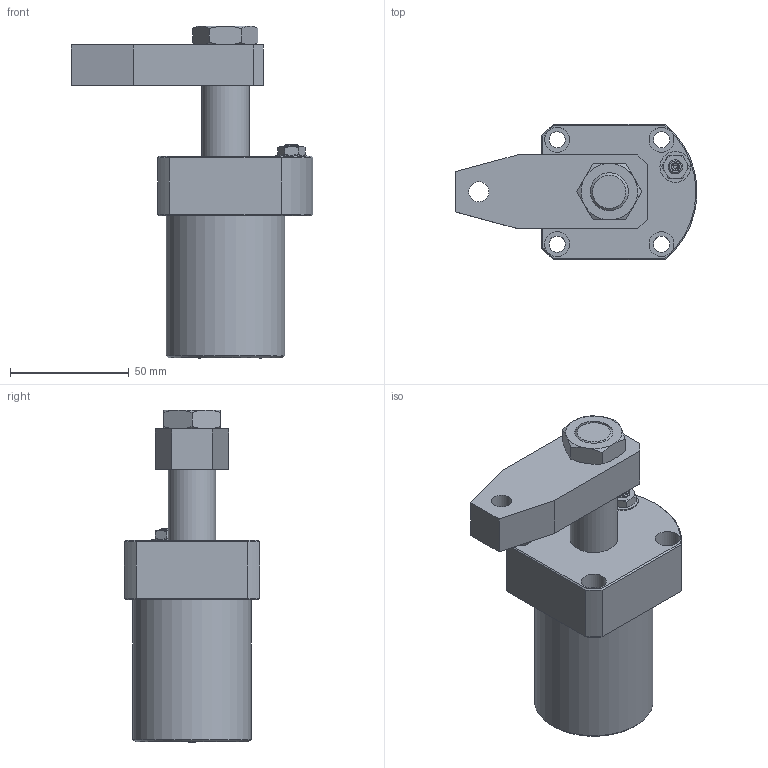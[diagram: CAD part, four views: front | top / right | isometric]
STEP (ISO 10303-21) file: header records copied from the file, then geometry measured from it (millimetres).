
FILE_DESCRIPTION(/* description */ ('Unknown'),/* implementation_level */ '2;1');
FILE_NAME(/* name */ 'HSC-FCM32S-A',/* time_stamp */ '2019-05-23T08:29:50+08:00',/* author */ ('Unknown'),/* organization */ ('Unknown'),/* preprocessor_version */ 'ST-DEVELOPER v16.7',/* originating_system */ 'DEX',/* authorisation */ $);
FILE_SCHEMA (('AUTOMOTIVE_DESIGN {1 0 10303 214 3 1 1}'));
Length unit declared in the file: millimetre
Products named in the file (4): HSC-FCM32S-A; HSC-FCM32S-CYLINDER; HSC-3202-S-AXLE CENTRE; HSC-32S-A
Assembly tree (3 placements, depth 2):
  HSC-FCM32S-A
    HSC-FCM32S-CYLINDER
    HSC-3202-S-AXLE CENTRE
    HSC-32S-A
Bounding box: 101.88 x 57 x 140 mm (x, y, z)
Volume: 229991.3 mm3; surface area: 48776.5 mm2
Topology: 3 solids, 3 shells, 136 faces, 290 edges, 183 vertices
Faces by surface type: plane 58, cone 35, cylinder 28, bspline 12, torus 3
Full cylindrical faces by diameter (mm): 3 x2, 4.1 x2, 6 x1, 6.8 x4, 8.5 x1, 9 x2, 10.5 x4, 13 x1, 16 x2, 17 x1, 20 x2, 32 x2, 50 x1
Entity records: 3978 total; most frequent: CARTESIAN_POINT 952, DIRECTION 508, ORIENTED_EDGE 480, EDGE_CURVE 240, AXIS2_PLACEMENT_3D 224, EDGE_LOOP 210, FACE_BOUND 210, VERTEX_POINT 172
